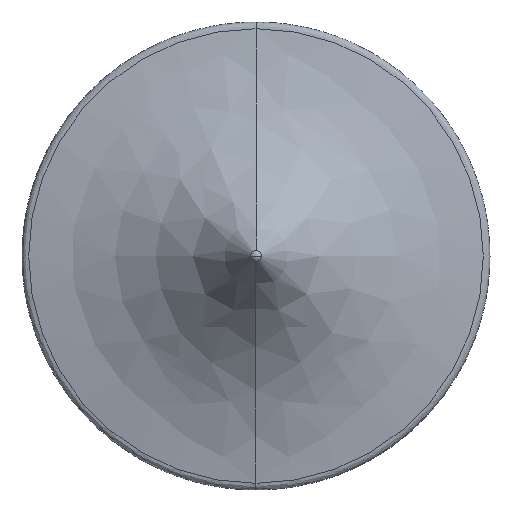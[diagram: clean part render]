
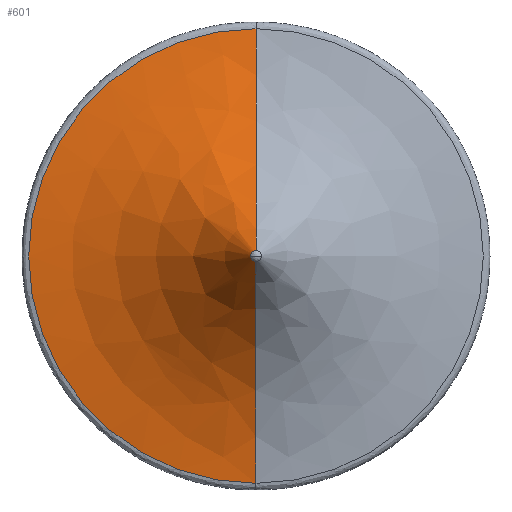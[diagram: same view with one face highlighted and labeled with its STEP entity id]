
A CAD part, front view. The second image highlights one B-rep face of the part: STEP entity #601.
In plain terms, the highlighted free-form (B-spline) face has degree [3, 3] with [4, 4] control points.
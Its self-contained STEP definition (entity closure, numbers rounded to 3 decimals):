
#14 = CARTESIAN_POINT ( 'NONE',  ( 0., -44.184, 1.694 ) ) ;
#19 = AXIS2_PLACEMENT_3D ( 'NONE', #1100, #547, #524 ) ;
#26 = CARTESIAN_POINT ( 'NONE',  ( 0., -4., -68. ) ) ;
#196 = DIRECTION ( 'NONE',  ( 0., 1., 0. ) ) ;
#222 = CARTESIAN_POINT ( 'NONE',  ( 0., -20.624, 16.483 ) ) ;
#230 = CARTESIAN_POINT ( 'NONE',  ( 0., -44.184, 1.694 ) ) ;
#287 = ORIENTED_EDGE ( 'NONE', *, *, #1429, .F. ) ;
#402 =( BOUNDED_SURFACE ( )  B_SPLINE_SURFACE ( 3, 3, ( 
 ( #974, #1275, #663, #701 ),
 ( #1356, #840, #1971, #848 ),
 ( #1022, #1887, #962, #1953 ),
 ( #1534, #1923, #660, #14 ) ),
 .UNSPECIFIED., .F., .F., .F. ) 
 B_SPLINE_SURFACE_WITH_KNOTS ( ( 4, 4 ),
 ( 4, 4 ),
 ( 0., 1. ),
 ( 0., 1. ),
 .UNSPECIFIED. ) 
 GEOMETRIC_REPRESENTATION_ITEM ( )  RATIONAL_B_SPLINE_SURFACE ( (
 ( 1., 0.333, 0.333, 1.),
 ( 0.929, 0.31, 0.31, 0.929),
 ( 0.929, 0.31, 0.31, 0.929),
 ( 1., 0.333, 0.333, 1.) ) ) 
 REPRESENTATION_ITEM ( '' )  SURFACE ( )  );
#433 = EDGE_LOOP ( 'NONE', ( #1801, #655, #818, #607, #287 ) ) ;
#441 = CARTESIAN_POINT ( 'NONE',  ( 0., -4., -68. ) ) ;
#453 = EDGE_CURVE ( 'NONE', #1606, #800, #641, .T. ) ;
#513 = CARTESIAN_POINT ( 'NONE',  ( 0., -4., 0. ) ) ;
#524 = DIRECTION ( 'NONE',  ( 0., 0., 1. ) ) ;
#547 = DIRECTION ( 'NONE',  ( 0., 1., 0. ) ) ;
#601 = ADVANCED_FACE ( 'NONE', ( #1462 ), #402, .T. ) ;
#607 = ORIENTED_EDGE ( 'NONE', *, *, #857, .T. ) ;
#641 =( BOUNDED_CURVE ( )  B_SPLINE_CURVE ( 3, ( #26, #1321, #1326, #1350 ),
 .UNSPECIFIED., .F., .F. ) 
 B_SPLINE_CURVE_WITH_KNOTS ( ( 4, 4 ),
 ( 0., 1. ),
 .UNSPECIFIED. ) 
 CURVE ( )  GEOMETRIC_REPRESENTATION_ITEM ( )  RATIONAL_B_SPLINE_CURVE ( ( 1., 0.929, 0.929, 1. ) ) 
 REPRESENTATION_ITEM ( '' )  );
#655 = ORIENTED_EDGE ( 'NONE', *, *, #453, .T. ) ;
#657 =( BOUNDED_CURVE ( )  B_SPLINE_CURVE ( 3, ( #1259, #757, #222, #230 ),
 .UNSPECIFIED., .F., .F. ) 
 B_SPLINE_CURVE_WITH_KNOTS ( ( 4, 4 ),
 ( 0., 1. ),
 .UNSPECIFIED. ) 
 CURVE ( )  GEOMETRIC_REPRESENTATION_ITEM ( )  RATIONAL_B_SPLINE_CURVE ( ( 1., 0.929, 0.929, 1. ) ) 
 REPRESENTATION_ITEM ( '' )  );
#660 = CARTESIAN_POINT ( 'NONE',  ( -3.388, -44.184, 1.694 ) ) ;
#663 = CARTESIAN_POINT ( 'NONE',  ( -136., -4., 68. ) ) ;
#692 = EDGE_CURVE ( 'NONE', #800, #1717, #1836, .T. ) ;
#701 = CARTESIAN_POINT ( 'NONE',  ( 0., -4., 68. ) ) ;
#757 = CARTESIAN_POINT ( 'NONE',  ( 0., -6.208, 40.271 ) ) ;
#766 = CARTESIAN_POINT ( 'NONE',  ( 0., -4., 68. ) ) ;
#798 = VERTEX_POINT ( 'NONE', #766 ) ;
#800 = VERTEX_POINT ( 'NONE', #844 ) ;
#818 = ORIENTED_EDGE ( 'NONE', *, *, #692, .T. ) ;
#840 = CARTESIAN_POINT ( 'NONE',  ( -80.543, -6.208, -40.271 ) ) ;
#844 = CARTESIAN_POINT ( 'NONE',  ( 0., -44.184, -1.694 ) ) ;
#848 = CARTESIAN_POINT ( 'NONE',  ( 0., -6.208, 40.271 ) ) ;
#857 = EDGE_CURVE ( 'NONE', #1717, #2034, #858, .T. ) ;
#858 = CIRCLE ( 'NONE', #979, 1.694 ) ;
#962 = CARTESIAN_POINT ( 'NONE',  ( -32.965, -20.624, 16.483 ) ) ;
#969 = EDGE_CURVE ( 'NONE', #1606, #798, #2006, .T. ) ;
#974 = CARTESIAN_POINT ( 'NONE',  ( 0., -4., -68. ) ) ;
#979 = AXIS2_PLACEMENT_3D ( 'NONE', #1863, #1476, #1236 ) ;
#1022 = CARTESIAN_POINT ( 'NONE',  ( 0., -20.624, -16.483 ) ) ;
#1065 = CARTESIAN_POINT ( 'NONE',  ( -1.694, -44.184, 0. ) ) ;
#1100 = CARTESIAN_POINT ( 'NONE',  ( 0., -44.184, 0. ) ) ;
#1236 = DIRECTION ( 'NONE',  ( 0., 0., 1. ) ) ;
#1259 = CARTESIAN_POINT ( 'NONE',  ( 0., -4., 68. ) ) ;
#1275 = CARTESIAN_POINT ( 'NONE',  ( -136., -4., -68. ) ) ;
#1312 = DIRECTION ( 'NONE',  ( 0., 0., 1. ) ) ;
#1321 = CARTESIAN_POINT ( 'NONE',  ( 0., -6.208, -40.271 ) ) ;
#1326 = CARTESIAN_POINT ( 'NONE',  ( 0., -20.624, -16.483 ) ) ;
#1350 = CARTESIAN_POINT ( 'NONE',  ( 0., -44.184, -1.694 ) ) ;
#1356 = CARTESIAN_POINT ( 'NONE',  ( 0., -6.208, -40.271 ) ) ;
#1429 = EDGE_CURVE ( 'NONE', #798, #2034, #657, .T. ) ;
#1462 = FACE_OUTER_BOUND ( 'NONE', #433, .T. ) ;
#1476 = DIRECTION ( 'NONE',  ( 0., 1., 0. ) ) ;
#1534 = CARTESIAN_POINT ( 'NONE',  ( 0., -44.184, -1.694 ) ) ;
#1606 = VERTEX_POINT ( 'NONE', #441 ) ;
#1618 = CARTESIAN_POINT ( 'NONE',  ( 0., -44.184, 1.694 ) ) ;
#1694 = AXIS2_PLACEMENT_3D ( 'NONE', #513, #196, #1312 ) ;
#1717 = VERTEX_POINT ( 'NONE', #1065 ) ;
#1801 = ORIENTED_EDGE ( 'NONE', *, *, #969, .F. ) ;
#1836 = CIRCLE ( 'NONE', #19, 1.694 ) ;
#1863 = CARTESIAN_POINT ( 'NONE',  ( 0., -44.184, 0. ) ) ;
#1887 = CARTESIAN_POINT ( 'NONE',  ( -32.965, -20.624, -16.483 ) ) ;
#1923 = CARTESIAN_POINT ( 'NONE',  ( -3.388, -44.184, -1.694 ) ) ;
#1953 = CARTESIAN_POINT ( 'NONE',  ( 0., -20.624, 16.483 ) ) ;
#1971 = CARTESIAN_POINT ( 'NONE',  ( -80.543, -6.208, 40.271 ) ) ;
#2006 = CIRCLE ( 'NONE', #1694, 68. ) ;
#2034 = VERTEX_POINT ( 'NONE', #1618 ) ;
